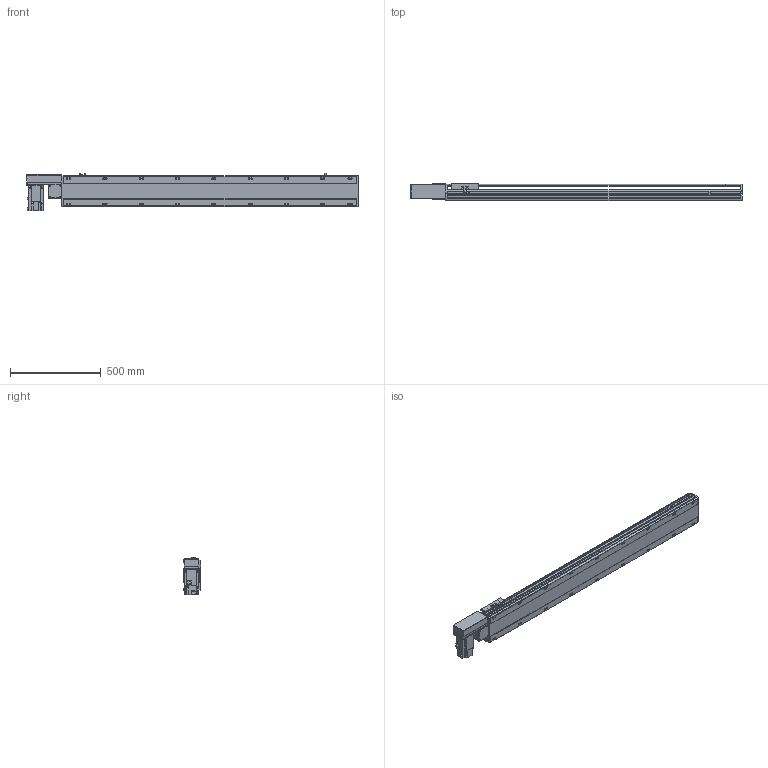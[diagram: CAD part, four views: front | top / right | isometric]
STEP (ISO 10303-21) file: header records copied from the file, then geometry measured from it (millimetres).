
FILE_DESCRIPTION( ( 'STEP AP214' ), '1' );
FILE_NAME( 'x:/temp/worker_4/temp/exporttempdir_2248_267_qhSPU/format_0/PBS170-P40-S1350-R-T75-C1-N(0).stp', '2022-06-07T07:30:32', ( 'License CC BY-ND 4.0' ), ( 'CADENAS' ), ' ', 'PARTsolutions', ' ' );
FILE_SCHEMA( ( 'AUTOMOTIVE_DESIGN { 1 0 10303 214 1 1 1 1 }' ) );
Length unit declared in the file: millimetre
Products named in the file (7): PBS170-P40-S1350-R-T75-C1-N(0); _PBS170-S1350()_body; _PBS170T-R_motors; _T75-p1; _PBS170_sliser; _PBS170_plant; _PBS170_sensor
Assembly tree (8 placements, depth 2):
  PBS170-P40-S1350-R-T75-C1-N(0)
    _PBS170-S1350()_body
    _PBS170T-R_motors
    _T75-p1
    _PBS170_sliser
    _PBS170_plant
    _PBS170_sensor  x3
Bounding box: 1828 x 97 x 205.3 mm (x, y, z)
Volume: 13484859.6 mm3; surface area: 1740827.6 mm2
Topology: 8 solids, 8 shells, 1098 faces, 2915 edges, 1900 vertices
Faces by surface type: plane 693, cylinder 347, cone 48, sphere 8, torus 2
Full cylindrical faces by diameter (mm): 3.242 x4, 4 x2, 4.4 x4, 4.5 x6, 4.917 x4, 6 x9, 6.647 x26, 7 x2, 7.5 x4, 8 x8, 8.5 x18, 10 x4, 10.5 x18, 11 x2, 30 x2, 40 x1, 70 x1
Entity records: 40382 total; most frequent: CARTESIAN_POINT 6389, DIRECTION 5370, ORIENTED_EDGE 5088, EDGE_CURVE 2544, AXIS2_PLACEMENT_3D 1867, VERTEX_POINT 1754, LINE 1636, VECTOR 1636
